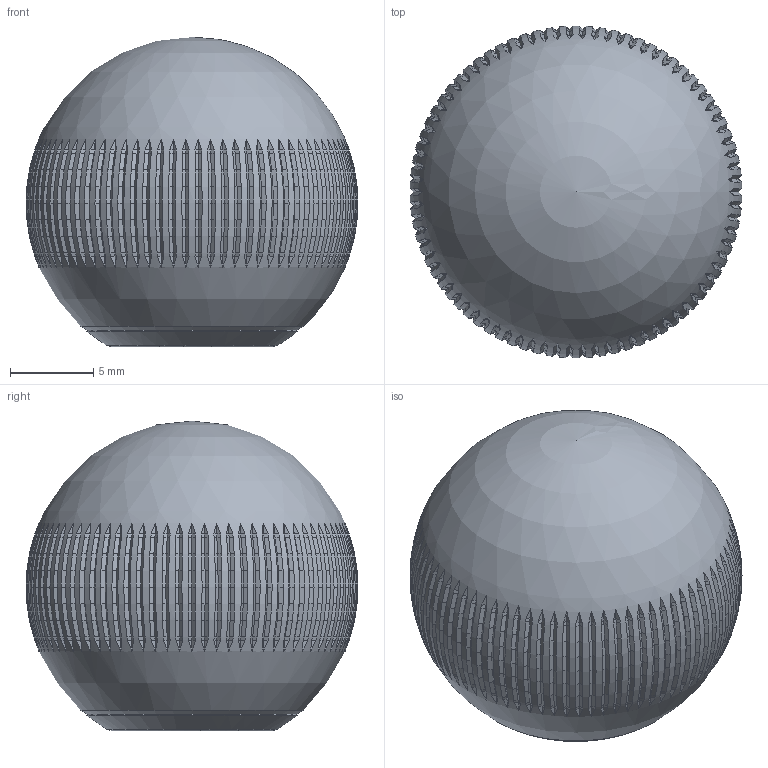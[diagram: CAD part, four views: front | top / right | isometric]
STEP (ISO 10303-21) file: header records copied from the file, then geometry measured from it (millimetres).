
FILE_DESCRIPTION(('Open CASCADE Model'),'2;1');
FILE_NAME('FL-BALL-knob-20','2026-10-19T21:24:19',('Author'),( 'Open CASCADE'),'Open CASCADE STEP processor 8.0','build123d', 'Unknown');
FILE_SCHEMA(('AUTOMOTIVE_DESIGN { 1 0 10303 214 1 1 1 1 }'));
Length unit declared in the file: millimetre
Products named in the file (2): FL-BALL-knob-20; brass_FL-BALL20__k
Assembly tree (1 placements, depth 2):
  FL-BALL-knob-20
    brass_FL-BALL20__k
Bounding box: 20 x 20 x 18.66 mm (x, y, z)
Volume: 4000.3 mm3; surface area: 1470.3 mm2
Topology: 1 solids, 1 shells, 1570 faces, 3762 edges, 2272 vertices
Faces by surface type: bspline 1561, plane 3, sphere 2, cone 2, cylinder 2
Full cylindrical faces by diameter (mm): 3.3 x1, 5.1 x1
Entity records: 130381 total; most frequent: CARTESIAN_POINT 71093, ORIENTED_EDGE 7522, PCURVE 7522, DEFINITIONAL_REPRESENTATION 7522, B_SPLINE_CURVE_WITH_KNOTS 6715, DIRECTION 4600, LINE 4554, VECTOR 4554
